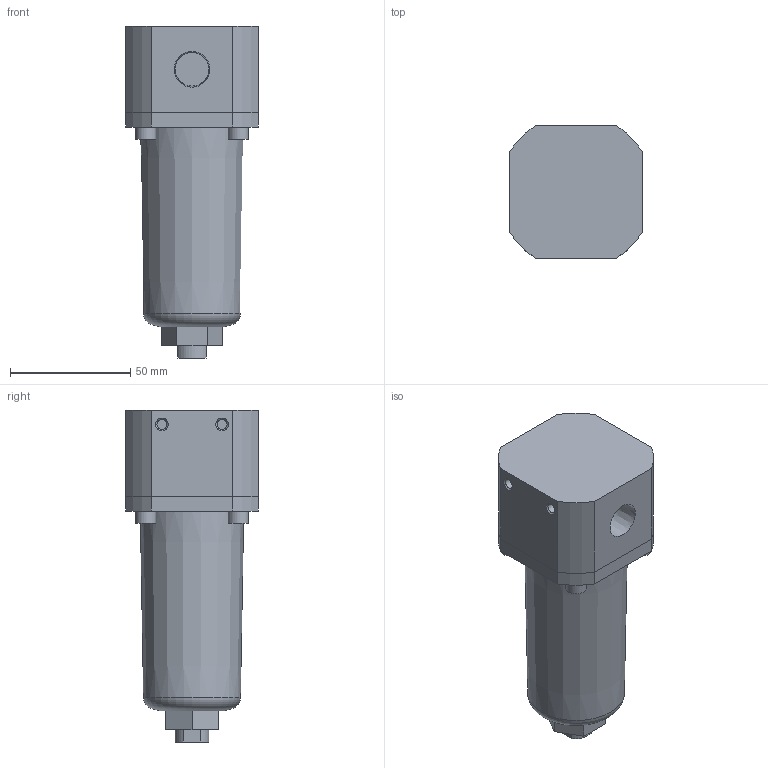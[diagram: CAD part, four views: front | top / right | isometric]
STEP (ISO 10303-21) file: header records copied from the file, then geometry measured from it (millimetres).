
FILE_DESCRIPTION(/* description */ ('FILTRO G3/8 NPT #µm - # S.A.'),/* implementation_level */ '2;1');
FILE_NAME(/* name */ 'I:\Area Tecnica\Disegni\VARIE-3D\Componenti\FRL-INOX\SS172\SS172BF# #S.step',/* time_stamp */ '2016-04-06T09:50:58+02:00',/* author */ ('M.Valota'),/* organization */ ('Pneumax S.p.A.'),/* preprocessor_version */ 'ST-DEVELOPER v15.2',/* originating_system */ 'Autodesk Inventor 2014',/* authorisation */ '');
FILE_SCHEMA (('AUTOMOTIVE_DESIGN { 1 0 10303 214 3 1 1 }'));
Length unit declared in the file: millimetre
Products named in the file (1): SS172BF# #S
Bounding box: 55 x 55 x 138 mm (x, y, z)
Volume: 231347.8 mm3; surface area: 27281.3 mm2
Topology: 1 solids, 1 shells, 94 faces, 209 edges, 138 vertices
Faces by surface type: plane 63, cylinder 20, cone 10, torus 1
Full cylindrical faces by diameter (mm): 4.134 x4, 8.5 x4, 13.889 x2
Entity records: 2579 total; most frequent: DIRECTION 430, CARTESIAN_POINT 415, ORIENTED_EDGE 370, EDGE_CURVE 185, AXIS2_PLACEMENT_3D 150, EDGE_LOOP 136, VERTEX_POINT 135, LINE 130
